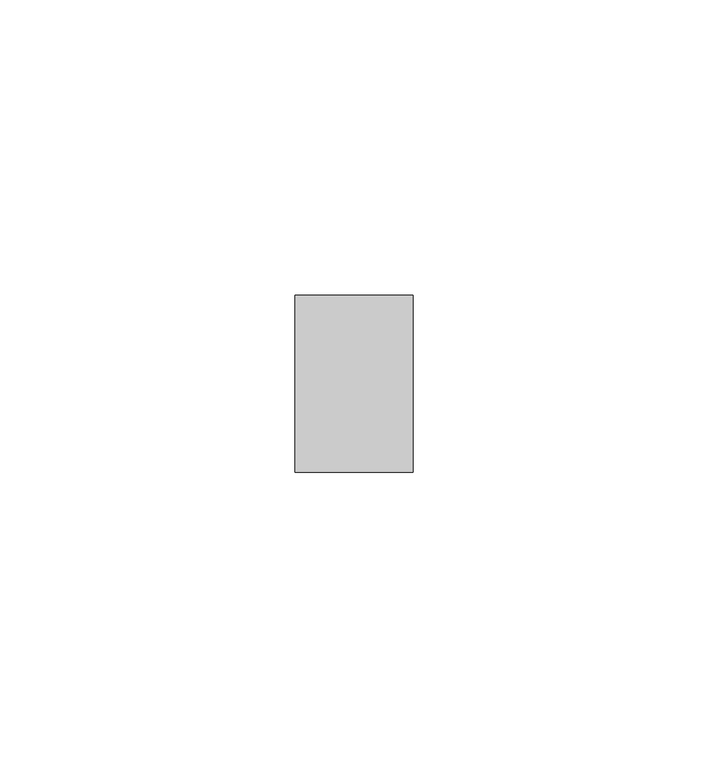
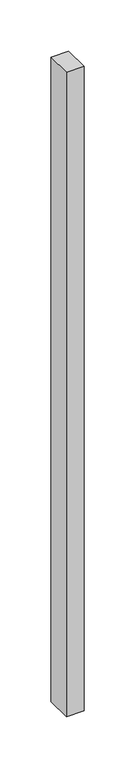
"""IFC4 building model written with IfcOpenShell, lengths in millimetres: member geometry, Прямоугольный импост : Квадрат 10 мм - Зазор между навесными плитами."""

import ifcopenshell
import ifcopenshell.guid

model = None  # the IFC model being written
_history = None  # IfcOwnerHistory: only IFC2X3 demands one
_inside = {}  # id of a spatial element -> (the spatial element, [elements in it])
_under = {}  # id of a project, library or spatial element -> (it, [spatial elements below it])
_declared = {}  # id of a project -> (the project, [libraries it declares])
_typed = {}  # id of a type object -> (the type object, [elements of that type])
_made_of = {}  # id of a material, layer set ... -> (it, [elements and type objects made of it])


def new_model(schema):
    """Start an empty IFC model of exactly this schema.

    Asked for "IFC4X3", IfcOpenShell would pick the latest addendum, in which some entities
    have other attributes; the version numbers below select the first issue.
    IFC2X3 requires an IfcOwnerHistory on every rooted entity: one is made here for all.
    """
    global model, _history
    if schema == "IFC4X3":
        model = ifcopenshell.file(schema_version=(4, 3, 0, 0))
    else:
        model = ifcopenshell.file(schema=schema)
    _inside.clear()
    _under.clear()
    _declared.clear()
    _typed.clear()
    _made_of.clear()
    _history = None
    if model.schema == "IFC2X3":
        org = make("IfcOrganization", Name="unknown")
        user = make(
            "IfcPersonAndOrganization",
            ThePerson=make("IfcPerson", FamilyName="unknown"),
            TheOrganization=org,
        )
        app = make(
            "IfcApplication",
            ApplicationDeveloper=org,
            Version="unknown",
            ApplicationFullName="unknown",
            ApplicationIdentifier="unknown",
        )
        _history = make(
            "IfcOwnerHistory",
            OwningUser=user,
            OwningApplication=app,
            ChangeAction="ADDED",
            CreationDate=0,
        )
    return model


def make(cls, **values):
    """One entity of the class cls with the attributes given. An attribute that is None is left unset."""
    return model.create_entity(
        cls, **{name: value for name, value in values.items() if value is not None}
    )


def rooted(cls, **values):
    """An entity with a GlobalId (a new one), such as an element, a storey or a relation."""
    return make(cls, GlobalId=ifcopenshell.guid.new(), OwnerHistory=_history, **values)


def si_unit(unit_type, name, prefix=None):
    """IfcSIUnit, for example si_unit("LENGTHUNIT", "METRE", prefix="MILLI")."""
    return make("IfcSIUnit", UnitType=unit_type, Prefix=prefix, Name=name)


def assignment(units):
    """IfcUnitAssignment: the units of a project."""
    return None if units is None else make("IfcUnitAssignment", Units=units)


def point(xyz):
    """IfcCartesianPoint."""
    return None if xyz is None else make("IfcCartesianPoint", Coordinates=xyz)


def direction(xyz):
    """IfcDirection."""
    return None if xyz is None else make("IfcDirection", DirectionRatios=xyz)


def frame(location, z_axis=None, x_axis=None):
    """IfcAxis2Placement3D, a coordinate frame: its origin and axes. An axis left out is left unset."""
    return make(
        "IfcAxis2Placement3D",
        Location=point(location),
        Axis=direction(z_axis),
        RefDirection=direction(x_axis),
    )


def origin():
    """The frame at (0, 0, 0) with its axes left unset."""
    return frame((0.0, 0.0, 0.0))


def place(relative_to, where):
    """IfcLocalPlacement: puts the frame where relative to a parent placement (None: the world)."""
    return make(
        "IfcLocalPlacement", PlacementRelTo=relative_to, RelativePlacement=where
    )


def context(
    kind, dimensions, precision=None, world=None, true_north=None, identifier=None
):
    """IfcGeometricRepresentationContext, for example the 3D "Model" context."""
    return make(
        "IfcGeometricRepresentationContext",
        ContextIdentifier=identifier,
        ContextType=kind,
        CoordinateSpaceDimension=dimensions,
        Precision=precision,
        WorldCoordinateSystem=world,
        TrueNorth=true_north,
    )


def project(units=None, contexts=None):
    """IfcProject with its units and contexts."""
    return rooted(
        "IfcProject",
        Name="project",
        RepresentationContexts=contexts,
        UnitsInContext=assignment(units),
    )


def spatial(cls, under=None, at=None, **own):
    """A site, building, storey or space (cls), placed at a placement, below another one or the project."""
    s = rooted(cls, ObjectPlacement=at, **own)
    if under is not None:
        _under.setdefault(under.id(), (under, []))[1].append(s)
    return s


def polyline(points):
    """IfcPolyline through the points."""
    return make("IfcPolyline", Points=[point(p) for p in points])


def outline(outer, holes=None, kind="AREA"):
    """IfcArbitraryClosedProfileDef: a profile drawn as a closed curve; with holes, ...WithVoids."""
    if holes is None:
        return make("IfcArbitraryClosedProfileDef", ProfileType=kind, OuterCurve=outer)
    return make(
        "IfcArbitraryProfileDefWithVoids",
        ProfileType=kind,
        OuterCurve=outer,
        InnerCurves=holes,
    )


def extrude(swept, where, along, depth):
    """IfcExtrudedAreaSolid: the profile swept, set in the frame where, extruded along a direction by depth."""
    return make(
        "IfcExtrudedAreaSolid",
        SweptArea=swept,
        Position=where,
        ExtrudedDirection=direction(along),
        Depth=depth,
    )


def shape(context_of_items, identifier, shape_type, items):
    """IfcShapeRepresentation: the items that make up one representation, for example the "Body"."""
    return make(
        "IfcShapeRepresentation",
        ContextOfItems=context_of_items,
        RepresentationIdentifier=identifier,
        RepresentationType=shape_type,
        Items=items,
    )


def source(mapping_origin, context_of_items, identifier, shape_type, items):
    """IfcRepresentationMap: a shape defined once, which mapped items show again and again."""
    return make(
        "IfcRepresentationMap",
        MappingOrigin=mapping_origin,
        MappedRepresentation=shape(context_of_items, identifier, shape_type, items),
    )


def transform(
    local_origin,
    x_axis=None,
    y_axis=None,
    z_axis=None,
    scale=None,
    scale2=None,
    scale3=None,
    uniform=True,
):
    """IfcCartesianTransformationOperator3D, or its non-uniform kind. x_axis, y_axis, z_axis: its Axis1, 2, 3."""
    if uniform:
        return make(
            "IfcCartesianTransformationOperator3D",
            Axis1=direction(x_axis),
            Axis2=direction(y_axis),
            LocalOrigin=point(local_origin),
            Scale=scale,
            Axis3=direction(z_axis),
        )
    return make(
        "IfcCartesianTransformationOperator3DnonUniform",
        Axis1=direction(x_axis),
        Axis2=direction(y_axis),
        LocalOrigin=point(local_origin),
        Scale=scale,
        Axis3=direction(z_axis),
        Scale2=scale2,
        Scale3=scale3,
    )


def mapped(mapping_source, mapping_target):
    """IfcMappedItem: shows the shape of a source again, moved by a transform."""
    return make(
        "IfcMappedItem", MappingSource=mapping_source, MappingTarget=mapping_target
    )


def made_of(thing, what):
    """Note that an element or type object is made of a material, layer set ...; save() writes the relation."""
    if what is not None:
        _made_of.setdefault(what.id(), (what, []))[1].append(thing)
    return thing


def element(
    cls,
    number,
    at=None,
    inside=None,
    cuts=None,
    type_object=None,
    material=None,
    context=None,
    identifier="Body",
    shape_type=None,
    held_by="IfcProductDefinitionShape",
    body=None,
    shapes=None,
    **own,
):
    """One element of the class cls, such as IfcWall. Its Tag is "e" and its number.

    at: its placement. inside: the storey or other place that contains it. cuts: it is an
    opening in that element (IfcRelVoidsElement). A single representation is given by context,
    identifier, shape_type and body (its items); several are given by shapes. held_by: the class
    of the entity that holds the representations. save() writes the other relations.
    """
    e = rooted(cls, Tag="e%d" % number, ObjectPlacement=at, **own)
    if body is not None:
        shapes = [shape(context, identifier, shape_type, body)]
    if shapes is not None:
        e.Representation = make(held_by, Representations=shapes)
    if inside is not None:
        _inside.setdefault(inside.id(), (inside, []))[1].append(e)
    if cuts is not None:
        rooted(
            "IfcRelVoidsElement", RelatingBuildingElement=cuts, RelatedOpeningElement=e
        )
    if type_object is not None:
        _typed.setdefault(type_object.id(), (type_object, []))[1].append(e)
    return made_of(e, material)


def aggregate(whole, parts):
    """IfcRelAggregates: a whole, such as a stair, and the parts it consists of."""
    return rooted("IfcRelAggregates", RelatingObject=whole, RelatedObjects=parts)


def save(model, path):
    """Write the relations noted so far, then the file.

    IfcRelAggregates (storeys below a building ...), IfcRelContainedInSpatialStructure (elements
    in a storey), IfcRelDefinesByType, IfcRelAssociatesMaterial and IfcRelDeclares: one each for
    every whole, place, type object, material and project.
    """
    for whole, parts in _under.values():
        aggregate(whole, parts)
    for where, things in _inside.values():
        rooted(
            "IfcRelContainedInSpatialStructure",
            RelatedElements=things,
            RelatingStructure=where,
        )
    for kind, things in _typed.values():
        rooted("IfcRelDefinesByType", RelatedObjects=things, RelatingType=kind)
    for what, things in _made_of.values():
        rooted("IfcRelAssociatesMaterial", RelatedObjects=things, RelatingMaterial=what)
    for by, libraries in _declared.values():
        rooted("IfcRelDeclares", RelatingContext=by, RelatedDefinitions=libraries)
    model.write(path)


def member_9a4380f4(model_context):
    return source(origin(), model_context, "Body", "SweptSolid", [
        extrude(outline(polyline([(10.0, 15.0), (10.0, -15.0), (-10.0, -15.0), (-10.0, 15.0), (10.0, 15.0)])), frame((0.0, 0.0, -769.0726972), z_axis=(0.0, 0.0, 1.0), x_axis=(1.0, 0.0, 0.0)), (0.0, 0.0, 1.0), 769.0726972),
    ])


if __name__ == "__main__":
    model = new_model("IFC4")
    model_context = context("Model", 3, world=origin())
    ifc_project = project(units=[si_unit("LENGTHUNIT", "METRE", prefix="MILLI")], contexts=[model_context])
    site = spatial("IfcSite", under=ifc_project)
    building = spatial("IfcBuilding", under=site)
    placement = place(None, origin())
    member_shape = member_9a4380f4(model_context)
    element("IfcMember", 1, ObjectType="Прямоугольный импост : Квадрат 10 мм - Зазор между навесными плитами", at=placement, inside=building, context=model_context, shape_type="MappedRepresentation", body=[
        mapped(member_shape, transform((0.0, 0.0, 0.0), x_axis=(1.0, 0.0, 0.0), y_axis=(0.0, 1.0, 0.0), z_axis=(0.0, 0.0, 1.0))),
    ])
    save(model, "model.ifc")
